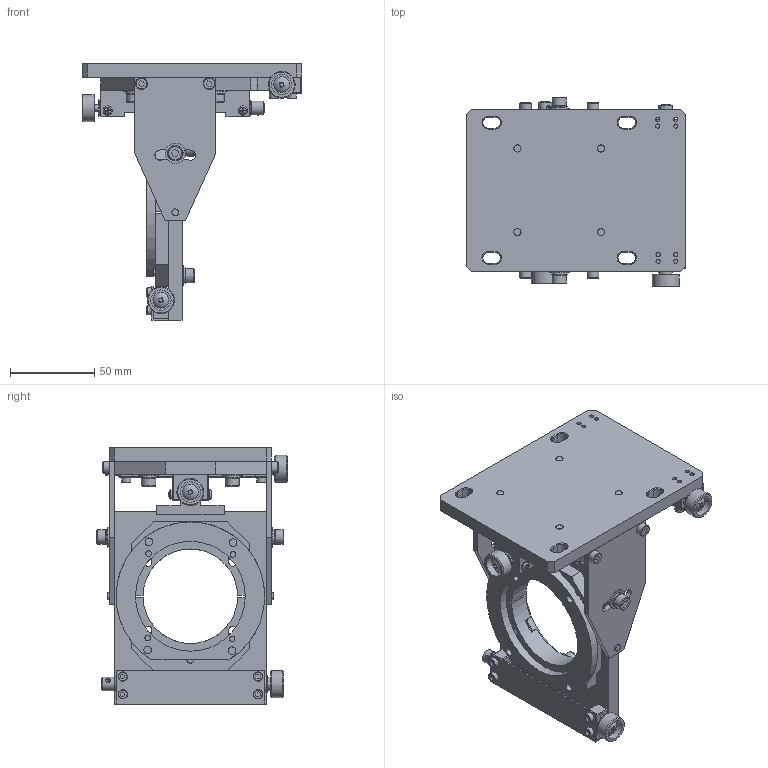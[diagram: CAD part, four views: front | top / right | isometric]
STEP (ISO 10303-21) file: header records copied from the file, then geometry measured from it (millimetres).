
FILE_DESCRIPTION (( 'STEP AP203' ), '1' );
FILE_NAME ('C7-5047-00-44／調整架台_NED-AFB06-SG-S6.STEP', '2020-05-21T05:10:05', ( '' ), ( '' ), 'SwSTEP 2.0', 'SolidWorks 2016', '' );
FILE_SCHEMA (( 'CONFIG_CONTROL_DESIGN' ));
Length unit declared in the file: millimetre
Products named in the file (1): C7-5047-00-44／調整架台_NED-AFB06-SG-S6
Bounding box: 130.2 x 112.5 x 152 mm (x, y, z)
Surface area: 119666.5 mm2 (no closed solid volume)
Topology: 0 solids, 111 shells, 741 faces, 2243 edges, 1588 vertices
Faces by surface type: plane 466, cylinder 176, cone 88, sphere 7, torus 4
Full cylindrical faces by diameter (mm): 2.5 x12, 3 x5, 3.3 x4, 4 x10, 4.2 x5, 4.5 x4, 5 x4, 5.5 x14, 7 x8, 8 x5, 8.5 x8, 10 x1, 12 x11, 16 x3, 65 x1
Entity records: 24952 total; most frequent: CARTESIAN_POINT 5290, DIRECTION 4132, ORIENTED_EDGE 3306, EDGE_CURVE 2039, VERTEX_POINT 1550, AXIS2_PLACEMENT_3D 1432, LINE 1268, VECTOR 1268
